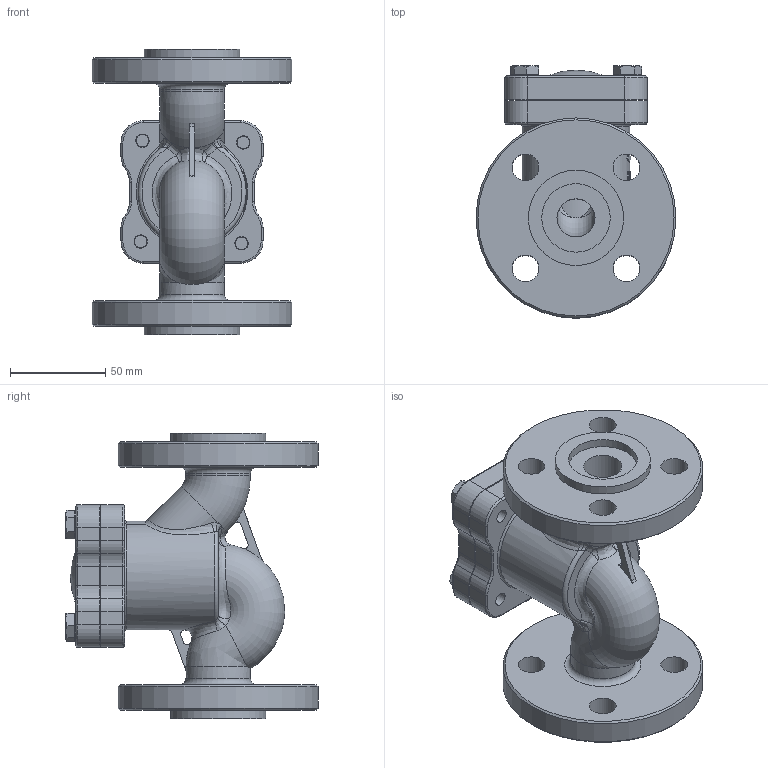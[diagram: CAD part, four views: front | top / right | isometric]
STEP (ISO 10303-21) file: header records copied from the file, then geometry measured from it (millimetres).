
FILE_DESCRIPTION(('STEP AP214'), '1');
FILE_NAME('VCR3434-F 孰囡囗 钺疣蝽 DN.ru 捏20 畜40', '', ('UNSPECIFIED'), ('UNSPECIFIED'), 'C3D Converter', 'C3D Toolkit', '');
FILE_SCHEMA(('AUTOMOTIVE_DESIGN { 1 0 10303 214 3 1 1}'));
Length unit declared in the file: millimetre
Products named in the file (1): VCR3434-F
Bounding box: 105 x 132.5 x 150 mm (x, y, z)
Volume: 541522.7 mm3; surface area: 106373.3 mm2
Topology: 2 solids, 2 shells, 347 faces, 839 edges, 519 vertices
Faces by surface type: plane 141, cylinder 84, bspline 51, torus 35, cone 32, sphere 3, extrusion 1
Full cylindrical faces by diameter (mm): 7 x8, 13 x4, 14 x8, 15 x1, 20 x2, 34 x2, 36 x2, 50 x2, 105 x2
Entity records: 20289 total; most frequent: CARTESIAN_POINT 10661, ORIENTED_EDGE 1578, DIRECTION 1484, EDGE_CURVE 789, AXIS2_PLACEMENT_3D 603, VERTEX_POINT 519, EDGE_LOOP 448, FACE_BOUND 381
